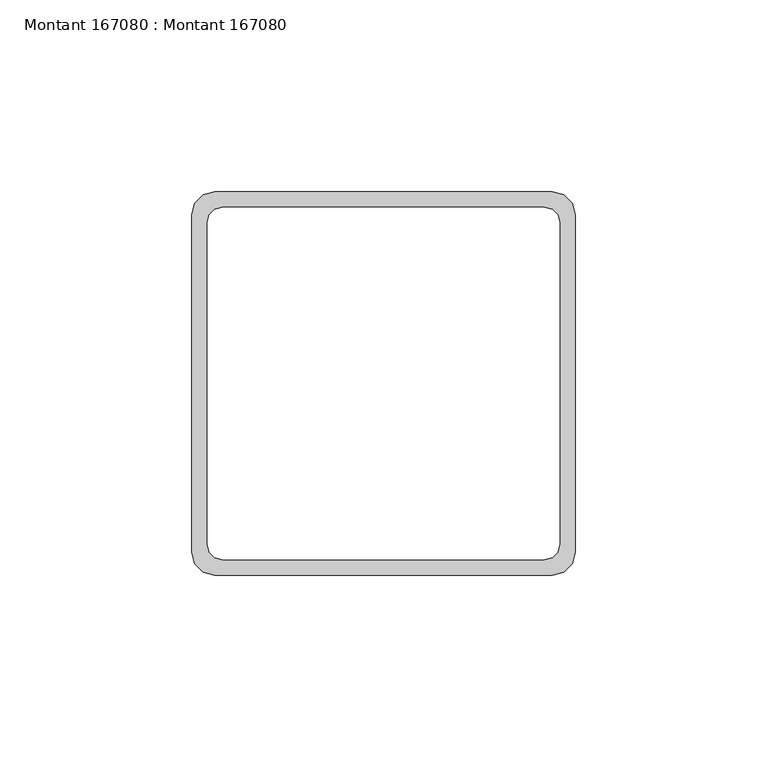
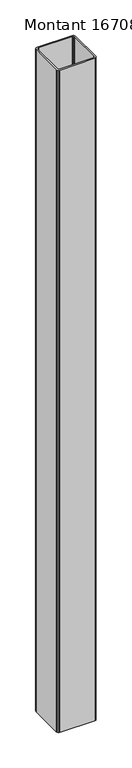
"""IFC4 building model written with IfcOpenShell, lengths in millimetres: beam geometry, Montant 167080 : Montant 167080."""

from ifc_helpers import new_model, si_unit, frame, origin, place, context, project, spatial, polyline, outline, extrude, source, transform, mapped, element, save


def montant_167080_montant_167080_a244d57f(model_context):
    return source(origin(), model_context, "Body", "SweptSolid", [
        extrude(outline(polyline([(425.9999999, -34333.5), (422.9999999, -34332.6961524), (420.8038474, -34330.5), (419.9999999, -34327.5), (419.9999999, -34239.5), (420.8038474, -34236.5), (422.9999999, -34234.3038476), (425.9999999, -34233.5), (513.9999999, -34233.5), (516.9999999, -34234.3038476), (519.1961523, -34236.5), (519.9999999, -34239.5), (519.9999999, -34327.5), (519.1961523, -34330.5), (516.9999999, -34332.6961524), (513.9999999, -34333.5), (425.9999999, -34333.5)]), holes=[polyline([(511.9999999, -34329.5), (513.9999999, -34328.9641016), (515.4641015, -34327.5), (515.9999999, -34325.5), (515.9999999, -34241.5), (515.4641015, -34239.5), (513.9999999, -34238.0358984), (511.9999999, -34237.5), (427.9999999, -34237.5), (425.9999999, -34238.0358984), (424.5358983, -34239.5), (423.9999999, -34241.5), (423.9999999, -34325.5), (424.5358983, -34327.5), (425.9999999, -34328.9641016), (427.9999999, -34329.5), (511.9999999, -34329.5)])]), frame((0.0, 0.0, 8550.0), z_axis=(0.0, 0.0, 1.0), x_axis=(1.0, 0.0, 0.0)), (0.0, 0.0, 1.0), 1765.0),
    ])


if __name__ == "__main__":
    model = new_model("IFC4")
    model_context = context("Model", 3, world=origin())
    ifc_project = project(units=[si_unit("LENGTHUNIT", "METRE", prefix="MILLI")], contexts=[model_context])
    site = spatial("IfcSite", under=ifc_project)
    building = spatial("IfcBuilding", under=site)
    placement = place(None, origin())
    montant_167080_montant_167080_shape = montant_167080_montant_167080_a244d57f(model_context)
    element("IfcBeam", 1, ObjectType="Montant 167080 : Montant 167080", at=placement, inside=building, context=model_context, shape_type="MappedRepresentation", body=[
        mapped(montant_167080_montant_167080_shape, transform((0.0, 0.0, 0.0), x_axis=(1.0, 0.0, 0.0), y_axis=(0.0, 1.0, 0.0), z_axis=(0.0, 0.0, 1.0))),
    ])
    save(model, "model.ifc")
